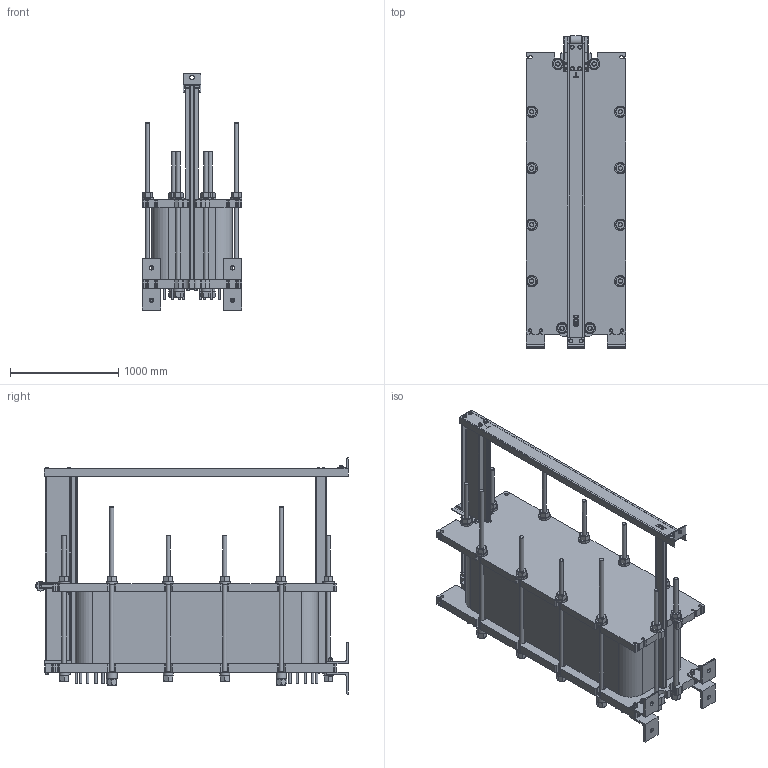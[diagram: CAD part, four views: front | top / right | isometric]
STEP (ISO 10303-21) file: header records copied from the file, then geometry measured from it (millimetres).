
FILE_DESCRIPTION((''),'2;1');
FILE_NAME('C:\temp\MX25_FG_LC1800_7_02_Rev0.stp','2009-09-27T06:03:41',('CNSHFLU'),(''),'Autodesk Inventor 2008','Autodesk Inventor 2008','');
FILE_SCHEMA(('AUTOMOTIVE_DESIGN { 1 2 10303 214 0 1 1 1 }'));
Length unit declared in the file: millimetre
Products named in the file (1): MX25
Bounding box: 925 x 2893.33 x 2185.5 mm (x, y, z)
Volume: 1391942584.2 mm3; surface area: 22379382.7 mm2
Topology: 1 solids, 16 shells, 2811 faces, 6657 edges, 4150 vertices
Faces by surface type: plane 1376, cone 728, cylinder 620, bspline 87
Full cylindrical faces by diameter (mm): 9.45 x4, 12 x12, 13 x10, 14 x2, 18 x4, 20 x63, 21 x13, 22 x5, 24 x20, 25 x8, 26 x4, 30 x2, 34.295 x4, 37 x10, 39 x24, 40 x5, 44 x8, 53 x24, 63 x12, 90 x8, 96 x4, 105 x12, 229 x4, 230 x4
Entity records: 77880 total; most frequent: CARTESIAN_POINT 16725, DIRECTION 12620, ORIENTED_EDGE 12428, EDGE_CURVE 6214, AXIS2_PLACEMENT_3D 4927, VERTEX_POINT 4098, EDGE_LOOP 3552, FACE_OUTER_BOUND 2811
